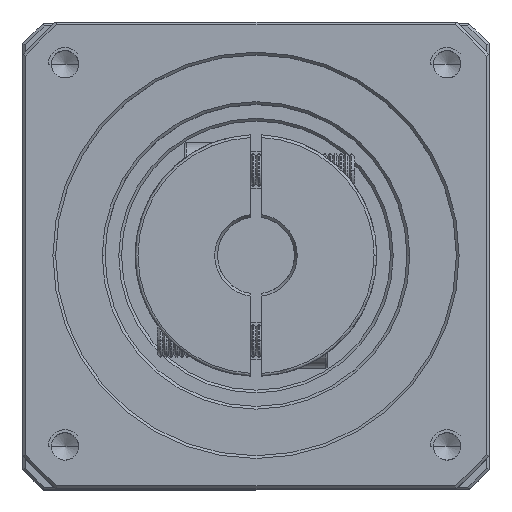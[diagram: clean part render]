
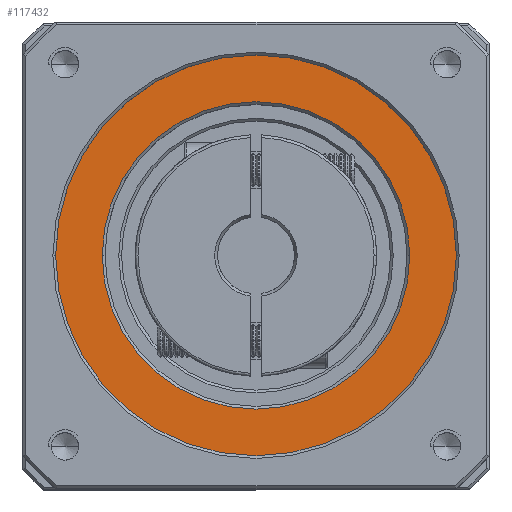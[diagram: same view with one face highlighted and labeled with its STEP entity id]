
A CAD part, top view. The second image highlights one B-rep face of the part: STEP entity #117432.
In plain terms, the highlighted planar face has unit normal (0, 0, 1).
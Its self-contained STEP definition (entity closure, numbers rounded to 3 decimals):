
#5188 = CARTESIAN_POINT ( 'NONE',  ( -63.499, 28.575, 12.383 ) ) ;
#7101 = DIRECTION ( 'NONE',  ( 0., 0., -1. ) ) ;
#7949 = DIRECTION ( 'NONE',  ( 0., 0., 1. ) ) ;
#8291 = CIRCLE ( 'NONE', #30856, 36.5 ) ;
#13392 = DIRECTION ( 'NONE',  ( 0., 0., 1. ) ) ;
#14553 = VERTEX_POINT ( 'NONE', #75179 ) ;
#14675 = CIRCLE ( 'NONE', #95011, 36.5 ) ;
#15586 = DIRECTION ( 'NONE',  ( 0., 0., 1. ) ) ;
#17995 = PLANE ( 'NONE',  #58403 ) ;
#18283 = DIRECTION ( 'NONE',  ( 1., 0., 0. ) ) ;
#25178 = ORIENTED_EDGE ( 'NONE', *, *, #117077, .T. ) ;
#25518 = AXIS2_PLACEMENT_3D ( 'NONE', #107801, #117328, #18283 ) ;
#30856 = AXIS2_PLACEMENT_3D ( 'NONE', #5188, #15586, #124653 ) ;
#41506 = ORIENTED_EDGE ( 'NONE', *, *, #91833, .T. ) ;
#48542 = CIRCLE ( 'NONE', #92765, 28. ) ;
#57643 = FACE_BOUND ( 'NONE', #109030, .T. ) ;
#57672 = CARTESIAN_POINT ( 'NONE',  ( -26.999, 28.575, 12.383 ) ) ;
#58403 = AXIS2_PLACEMENT_3D ( 'NONE', #127916, #7949, #118300 ) ;
#67011 = FACE_OUTER_BOUND ( 'NONE', #92141, .T. ) ;
#69778 = VERTEX_POINT ( 'NONE', #84584 ) ;
#72510 = DIRECTION ( 'NONE',  ( 1., 0., 0. ) ) ;
#72517 = VERTEX_POINT ( 'NONE', #57672 ) ;
#75179 = CARTESIAN_POINT ( 'NONE',  ( -91.499, 28.575, 12.383 ) ) ;
#84584 = CARTESIAN_POINT ( 'NONE',  ( -99.999, 28.575, 12.383 ) ) ;
#91833 = EDGE_CURVE ( 'NONE', #101878, #14553, #48542, .T. ) ;
#92141 = EDGE_LOOP ( 'NONE', ( #111713, #25178 ) ) ;
#92765 = AXIS2_PLACEMENT_3D ( 'NONE', #126149, #7101, #115754 ) ;
#95011 = AXIS2_PLACEMENT_3D ( 'NONE', #121995, #13392, #72510 ) ;
#100545 = CARTESIAN_POINT ( 'NONE',  ( -35.499, 28.575, 12.383 ) ) ;
#101878 = VERTEX_POINT ( 'NONE', #100545 ) ;
#107801 = CARTESIAN_POINT ( 'NONE',  ( -63.499, 28.575, 12.383 ) ) ;
#109030 = EDGE_LOOP ( 'NONE', ( #41506, #116972 ) ) ;
#110836 = EDGE_CURVE ( 'NONE', #72517, #69778, #8291, .T. ) ;
#111713 = ORIENTED_EDGE ( 'NONE', *, *, #110836, .T. ) ;
#115754 = DIRECTION ( 'NONE',  ( 1., 0., 0. ) ) ;
#116972 = ORIENTED_EDGE ( 'NONE', *, *, #125543, .T. ) ;
#117077 = EDGE_CURVE ( 'NONE', #69778, #72517, #14675, .T. ) ;
#117328 = DIRECTION ( 'NONE',  ( 0., 0., -1. ) ) ;
#117432 = ADVANCED_FACE ( 'NONE', ( #67011, #57643 ), #17995, .T. ) ;
#118300 = DIRECTION ( 'NONE',  ( 1., 0., 0. ) ) ;
#121995 = CARTESIAN_POINT ( 'NONE',  ( -63.499, 28.575, 12.383 ) ) ;
#124653 = DIRECTION ( 'NONE',  ( 1., 0., 0. ) ) ;
#125543 = EDGE_CURVE ( 'NONE', #14553, #101878, #126542, .T. ) ;
#126149 = CARTESIAN_POINT ( 'NONE',  ( -63.499, 28.575, 12.383 ) ) ;
#126542 = CIRCLE ( 'NONE', #25518, 28. ) ;
#127916 = CARTESIAN_POINT ( 'NONE',  ( -63.499, 28.575, 12.383 ) ) ;
